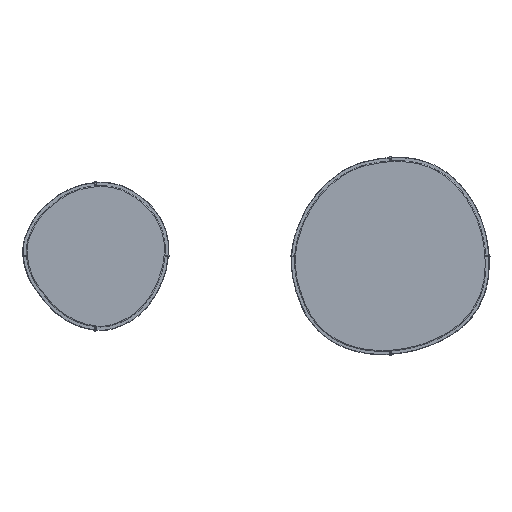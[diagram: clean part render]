
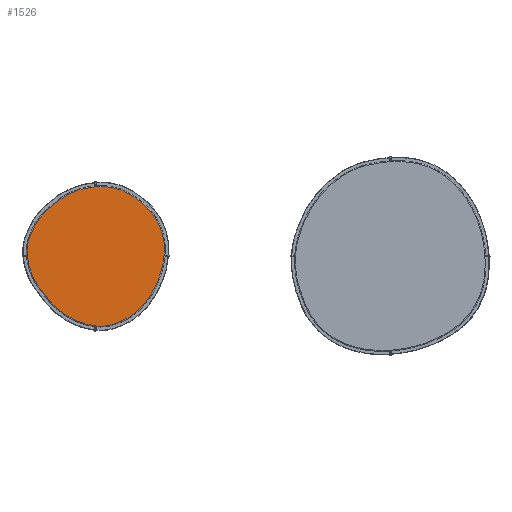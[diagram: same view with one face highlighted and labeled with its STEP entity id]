
A CAD part, top view. The second image highlights one B-rep face of the part: STEP entity #1526.
In plain terms, the highlighted planar face has unit normal (0, 0, 1).
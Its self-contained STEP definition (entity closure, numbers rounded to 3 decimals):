
#1526=ADVANCED_FACE('',(#3622),#32681,.T.);
#3622=FACE_OUTER_BOUND('',#5736,.T.);
#5736=EDGE_LOOP('',(#9377,#9378,#9379,#9380,#9381,#9382,#9383,#9384,#9385,
#9386,#9387,#9388,#9389,#9390));
#9377=ORIENTED_EDGE('',*,*,#18734,.T.);
#9378=ORIENTED_EDGE('',*,*,#18738,.T.);
#9379=ORIENTED_EDGE('',*,*,#18736,.T.);
#9380=ORIENTED_EDGE('',*,*,#18732,.T.);
#9381=ORIENTED_EDGE('',*,*,#18727,.T.);
#9382=ORIENTED_EDGE('',*,*,#18723,.T.);
#9383=ORIENTED_EDGE('',*,*,#18720,.T.);
#9384=ORIENTED_EDGE('',*,*,#18716,.T.);
#9385=ORIENTED_EDGE('',*,*,#18713,.T.);
#9386=ORIENTED_EDGE('',*,*,#18715,.T.);
#9387=ORIENTED_EDGE('',*,*,#18719,.T.);
#9388=ORIENTED_EDGE('',*,*,#18722,.T.);
#9389=ORIENTED_EDGE('',*,*,#18726,.T.);
#9390=ORIENTED_EDGE('',*,*,#18731,.T.);
#18713=EDGE_CURVE('',#28607,#28608,#23327,.T.);
#18715=EDGE_CURVE('',#28608,#28609,#23329,.T.);
#18716=EDGE_CURVE('',#28606,#28607,#23330,.T.);
#18719=EDGE_CURVE('',#28609,#28610,#23333,.T.);
#18720=EDGE_CURVE('',#28605,#28606,#23334,.T.);
#18722=EDGE_CURVE('',#28610,#28611,#23336,.T.);
#18723=EDGE_CURVE('',#28604,#28605,#23337,.T.);
#18726=EDGE_CURVE('',#28611,#28612,#23340,.T.);
#18727=EDGE_CURVE('',#28603,#28604,#23341,.T.);
#18731=EDGE_CURVE('',#28612,#28599,#23345,.T.);
#18732=EDGE_CURVE('',#28602,#28603,#23346,.T.);
#18734=EDGE_CURVE('',#28599,#28600,#23348,.T.);
#18736=EDGE_CURVE('',#28601,#28602,#23350,.T.);
#18738=EDGE_CURVE('',#28600,#28601,#23352,.T.);
#23327=(
BOUNDED_CURVE()
B_SPLINE_CURVE(2,(#42478,#42479,#42480),.UNSPECIFIED.,.F.,.F.)
B_SPLINE_CURVE_WITH_KNOTS((3,3),(-334.038,0.),.UNSPECIFIED.)
CURVE()
GEOMETRIC_REPRESENTATION_ITEM()
RATIONAL_B_SPLINE_CURVE((1.,0.935,1.))
REPRESENTATION_ITEM('')
);
#23329=(
BOUNDED_CURVE()
B_SPLINE_CURVE(2,(#42484,#42485,#42486),.UNSPECIFIED.,.F.,.F.)
B_SPLINE_CURVE_WITH_KNOTS((3,3),(-113.314,0.),.UNSPECIFIED.)
CURVE()
GEOMETRIC_REPRESENTATION_ITEM()
RATIONAL_B_SPLINE_CURVE((1.,0.977,1.))
REPRESENTATION_ITEM('')
);
#23330=(
BOUNDED_CURVE()
B_SPLINE_CURVE(2,(#42487,#42488,#42489),.UNSPECIFIED.,.F.,.F.)
B_SPLINE_CURVE_WITH_KNOTS((3,3),(-109.744,0.),.UNSPECIFIED.)
CURVE()
GEOMETRIC_REPRESENTATION_ITEM()
RATIONAL_B_SPLINE_CURVE((1.,0.999,1.))
REPRESENTATION_ITEM('')
);
#23333=(
BOUNDED_CURVE()
B_SPLINE_CURVE(2,(#42496,#42497,#42498),.UNSPECIFIED.,.F.,.F.)
B_SPLINE_CURVE_WITH_KNOTS((3,3),(-59.238,0.),.UNSPECIFIED.)
CURVE()
GEOMETRIC_REPRESENTATION_ITEM()
RATIONAL_B_SPLINE_CURVE((1.,0.998,1.))
REPRESENTATION_ITEM('')
);
#23334=(
BOUNDED_CURVE()
B_SPLINE_CURVE(2,(#42499,#42500,#42501),.UNSPECIFIED.,.F.,.F.)
B_SPLINE_CURVE_WITH_KNOTS((3,3),(-216.675,0.),.UNSPECIFIED.)
CURVE()
GEOMETRIC_REPRESENTATION_ITEM()
RATIONAL_B_SPLINE_CURVE((1.,0.964,1.))
REPRESENTATION_ITEM('')
);
#23336=(
BOUNDED_CURVE()
B_SPLINE_CURVE(2,(#42505,#42506,#42507),.UNSPECIFIED.,.F.,.F.)
B_SPLINE_CURVE_WITH_KNOTS((3,3),(-174.476,0.),.UNSPECIFIED.)
CURVE()
GEOMETRIC_REPRESENTATION_ITEM()
RATIONAL_B_SPLINE_CURVE((1.,0.974,1.))
REPRESENTATION_ITEM('')
);
#23337=(
BOUNDED_CURVE()
B_SPLINE_CURVE(2,(#42508,#42509,#42510),.UNSPECIFIED.,.F.,.F.)
B_SPLINE_CURVE_WITH_KNOTS((3,3),(-107.878,0.),.UNSPECIFIED.)
CURVE()
GEOMETRIC_REPRESENTATION_ITEM()
RATIONAL_B_SPLINE_CURVE((1.,0.98,1.))
REPRESENTATION_ITEM('')
);
#23340=(
BOUNDED_CURVE()
B_SPLINE_CURVE(2,(#42517,#42518,#42519),.UNSPECIFIED.,.F.,.F.)
B_SPLINE_CURVE_WITH_KNOTS((3,3),(-373.93,0.),.UNSPECIFIED.)
CURVE()
GEOMETRIC_REPRESENTATION_ITEM()
RATIONAL_B_SPLINE_CURVE((1.,0.944,1.))
REPRESENTATION_ITEM('')
);
#23341=(
BOUNDED_CURVE()
B_SPLINE_CURVE(2,(#42520,#42521,#42522),.UNSPECIFIED.,.F.,.F.)
B_SPLINE_CURVE_WITH_KNOTS((3,3),(-221.353,0.),.UNSPECIFIED.)
CURVE()
GEOMETRIC_REPRESENTATION_ITEM()
RATIONAL_B_SPLINE_CURVE((1.,0.969,1.))
REPRESENTATION_ITEM('')
);
#23345=(
BOUNDED_CURVE()
B_SPLINE_CURVE(2,(#42532,#42533,#42534),.UNSPECIFIED.,.F.,.F.)
B_SPLINE_CURVE_WITH_KNOTS((3,3),(-275.109,0.),.UNSPECIFIED.)
CURVE()
GEOMETRIC_REPRESENTATION_ITEM()
RATIONAL_B_SPLINE_CURVE((1.,0.931,1.))
REPRESENTATION_ITEM('')
);
#23346=(
BOUNDED_CURVE()
B_SPLINE_CURVE(2,(#42535,#42536,#42537),.UNSPECIFIED.,.F.,.F.)
B_SPLINE_CURVE_WITH_KNOTS((3,3),(-111.239,0.),.UNSPECIFIED.)
CURVE()
GEOMETRIC_REPRESENTATION_ITEM()
RATIONAL_B_SPLINE_CURVE((1.,0.996,1.))
REPRESENTATION_ITEM('')
);
#23348=(
BOUNDED_CURVE()
B_SPLINE_CURVE(2,(#42541,#42542,#42543),.UNSPECIFIED.,.F.,.F.)
B_SPLINE_CURVE_WITH_KNOTS((3,3),(-176.397,0.),.UNSPECIFIED.)
CURVE()
GEOMETRIC_REPRESENTATION_ITEM()
RATIONAL_B_SPLINE_CURVE((1.,0.985,1.))
REPRESENTATION_ITEM('')
);
#23350=(
BOUNDED_CURVE()
B_SPLINE_CURVE(2,(#42547,#42548,#42549),.UNSPECIFIED.,.F.,.F.)
B_SPLINE_CURVE_WITH_KNOTS((3,3),(-276.341,0.),.UNSPECIFIED.)
CURVE()
GEOMETRIC_REPRESENTATION_ITEM()
RATIONAL_B_SPLINE_CURVE((1.,0.956,1.))
REPRESENTATION_ITEM('')
);
#23352=(
BOUNDED_CURVE()
B_SPLINE_CURVE(2,(#42553,#42554,#42555),.UNSPECIFIED.,.F.,.F.)
B_SPLINE_CURVE_WITH_KNOTS((3,3),(-183.265,0.),.UNSPECIFIED.)
CURVE()
GEOMETRIC_REPRESENTATION_ITEM()
RATIONAL_B_SPLINE_CURVE((1.,0.967,1.))
REPRESENTATION_ITEM('')
);
#28599=VERTEX_POINT('',#42316);
#28600=VERTEX_POINT('',#42317);
#28601=VERTEX_POINT('',#42318);
#28602=VERTEX_POINT('',#42319);
#28603=VERTEX_POINT('',#42320);
#28604=VERTEX_POINT('',#42321);
#28605=VERTEX_POINT('',#42322);
#28606=VERTEX_POINT('',#42323);
#28607=VERTEX_POINT('',#42324);
#28608=VERTEX_POINT('',#42325);
#28609=VERTEX_POINT('',#42326);
#28610=VERTEX_POINT('',#42327);
#28611=VERTEX_POINT('',#42328);
#28612=VERTEX_POINT('',#42329);
#32681=PLANE('',#33581);
#33581=AXIS2_PLACEMENT_3D('',#40915,#34464,$);
#34464=DIRECTION('',(0.,0.,1.));
#40915=CARTESIAN_POINT('',(-2575.53,-541.944,311.3));
#42316=CARTESIAN_POINT('',(-1697.205,280.43,311.3));
#42317=CARTESIAN_POINT('',(-1831.739,393.196,311.3));
#42318=CARTESIAN_POINT('',(-2006.454,441.393,311.3));
#42319=CARTESIAN_POINT('',(-2267.464,364.038,311.3));
#42320=CARTESIAN_POINT('',(-2354.231,294.653,311.3));
#42321=CARTESIAN_POINT('',(-2470.487,108.989,311.3));
#42322=CARTESIAN_POINT('',(-2482.238,2.473,311.3));
#42323=CARTESIAN_POINT('',(-2407.3,-198.081,311.3));
#42324=CARTESIAN_POINT('',(-2339.897,-284.655,311.3));
#42325=CARTESIAN_POINT('',(-2054.653,-443.987,311.3));
#42326=CARTESIAN_POINT('',(-1942.496,-436.101,311.3));
#42327=CARTESIAN_POINT('',(-1886.734,-416.2,311.3));
#42328=CARTESIAN_POINT('',(-1746.703,-314.666,311.3));
#42329=CARTESIAN_POINT('',(-1610.456,26.077,311.3));
#42478=CARTESIAN_POINT('',(-2339.897,-284.655,311.3));
#42479=CARTESIAN_POINT('',(-2227.588,-418.588,311.3));
#42480=CARTESIAN_POINT('',(-2054.653,-443.987,311.3));
#42484=CARTESIAN_POINT('',(-2054.653,-443.987,311.3));
#42485=CARTESIAN_POINT('',(-1997.709,-452.35,311.3));
#42486=CARTESIAN_POINT('',(-1942.496,-436.101,311.3));
#42487=CARTESIAN_POINT('',(-2407.3,-198.081,311.3));
#42488=CARTESIAN_POINT('',(-2375.17,-242.591,311.3));
#42489=CARTESIAN_POINT('',(-2339.897,-284.655,311.3));
#42496=CARTESIAN_POINT('',(-1942.496,-436.101,311.3));
#42497=CARTESIAN_POINT('',(-1914.051,-427.729,311.3));
#42498=CARTESIAN_POINT('',(-1886.734,-416.2,311.3));
#42499=CARTESIAN_POINT('',(-2482.238,2.473,311.3));
#42500=CARTESIAN_POINT('',(-2472.269,-108.079,311.3));
#42501=CARTESIAN_POINT('',(-2407.3,-198.081,311.3));
#42505=CARTESIAN_POINT('',(-1886.734,-416.2,311.3));
#42506=CARTESIAN_POINT('',(-1804.939,-381.679,311.3));
#42507=CARTESIAN_POINT('',(-1746.703,-314.666,311.3));
#42508=CARTESIAN_POINT('',(-2470.487,108.989,311.3));
#42509=CARTESIAN_POINT('',(-2487.147,56.921,311.3));
#42510=CARTESIAN_POINT('',(-2482.238,2.473,311.3));
#42517=CARTESIAN_POINT('',(-1746.703,-314.666,311.3));
#42518=CARTESIAN_POINT('',(-1619.258,-168.014,311.3));
#42519=CARTESIAN_POINT('',(-1610.456,26.077,311.3));
#42520=CARTESIAN_POINT('',(-2354.231,294.653,311.3));
#42521=CARTESIAN_POINT('',(-2436.04,216.649,311.3));
#42522=CARTESIAN_POINT('',(-2470.487,108.989,311.3));
#42532=CARTESIAN_POINT('',(-1610.456,26.077,311.3));
#42533=CARTESIAN_POINT('',(-1603.916,170.277,311.3));
#42534=CARTESIAN_POINT('',(-1697.205,280.43,311.3));
#42535=CARTESIAN_POINT('',(-2267.464,364.038,311.3));
#42536=CARTESIAN_POINT('',(-2313.876,333.132,311.3));
#42537=CARTESIAN_POINT('',(-2354.231,294.653,311.3));
#42541=CARTESIAN_POINT('',(-1697.205,280.43,311.3));
#42542=CARTESIAN_POINT('',(-1754.764,348.395,311.3));
#42543=CARTESIAN_POINT('',(-1831.739,393.196,311.3));
#42547=CARTESIAN_POINT('',(-2006.454,441.393,311.3));
#42548=CARTESIAN_POINT('',(-2148.896,442.993,311.3));
#42549=CARTESIAN_POINT('',(-2267.464,364.038,311.3));
#42553=CARTESIAN_POINT('',(-1831.739,393.196,311.3));
#42554=CARTESIAN_POINT('',(-1912.739,440.339,311.3));
#42555=CARTESIAN_POINT('',(-2006.454,441.393,311.3));
